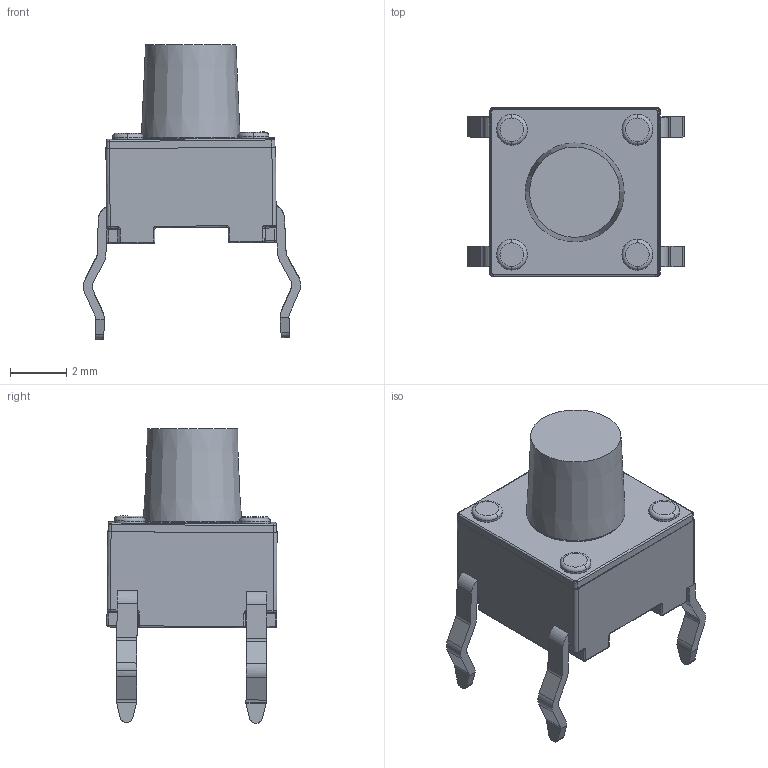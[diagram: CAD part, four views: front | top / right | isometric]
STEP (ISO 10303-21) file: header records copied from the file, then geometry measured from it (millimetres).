
FILE_DESCRIPTION(('FreeCAD Model'),'2;1');
FILE_NAME('C:/Users/Metaltex-99/Desktop/A06-7.0.stp', '2021-08-13T15:06:25',('Engenharia Metaltex'),('Metaltex'), 'Open CASCADE STEP processor 7.3','FreeCAD','Unknown');
FILE_SCHEMA(('AUTOMOTIVE_DESIGN { 1 0 10303 214 1 1 1 1 }'));
Length unit declared in the file: millimetre
Products named in the file (3): A06-7.0; Cilindro; Base
Assembly tree (2 placements, depth 2):
  A06-7.0
    Cilindro
    Base
Bounding box: 7.69 x 6.03 x 10.44 mm (x, y, z)
Volume: 155 mm3; surface area: 253.4 mm2
Topology: 2 solids, 2 shells, 294 faces, 716 edges, 408 vertices
Faces by surface type: cylinder 139, plane 90, torus 38, sphere 24, revolution 2, cone 1
Full cylindrical faces by diameter (mm): 3.46 x1
Entity records: 20696 total; most frequent: CARTESIAN_POINT 4354, DIRECTION 2863, LINE 1523, VECTOR 1523, ORIENTED_EDGE 1384, PCURVE 1384, DEFINITIONAL_REPRESENTATION 1384, EDGE_CURVE 692
